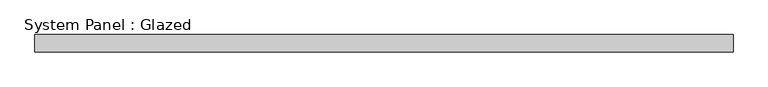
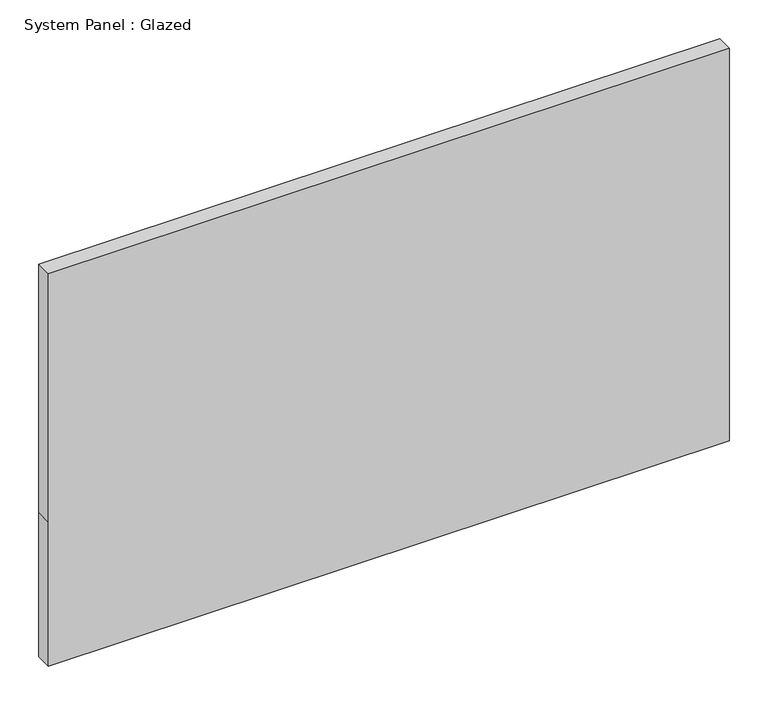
"""IFC4 building model written with IfcOpenShell, lengths in millimetres: plate geometry, System Panel : Glazed."""

from ifc_helpers import new_model, si_unit, frame, origin, place, context, project, spatial, polyline, outline, extrude, source, transform, mapped, element, save


def system_panel_glazed_74a70a57(model_context):
    return source(origin(), model_context, "Body", "SweptSolid", [
        extrude(outline(polyline([(0.0, -510.7214285), (0.0, 510.7214285), (228.6, 510.7214285), (622.3, 510.7214285), (622.3, -510.7214285), (228.6, -510.7214285), (0.0, -510.7214285)])), frame((0.0, 19.05, 0.0), z_axis=(0.0, 1.0, 0.0), x_axis=(0.0, 0.0, 1.0)), (0.0, 0.0, 1.0), 25.4),
    ])


if __name__ == "__main__":
    model = new_model("IFC4")
    model_context = context("Model", 3, world=origin())
    ifc_project = project(units=[si_unit("LENGTHUNIT", "METRE", prefix="MILLI")], contexts=[model_context])
    site = spatial("IfcSite", under=ifc_project)
    building = spatial("IfcBuilding", under=site)
    placement = place(None, origin())
    system_panel_glazed_shape = system_panel_glazed_74a70a57(model_context)
    element("IfcPlate", 1, ObjectType="System Panel : Glazed", at=placement, inside=building, context=model_context, shape_type="MappedRepresentation", body=[
        mapped(system_panel_glazed_shape, transform((0.0, 0.0, 0.0), x_axis=(1.0, 0.0, 0.0), y_axis=(0.0, 1.0, 0.0), z_axis=(0.0, 0.0, 1.0))),
    ])
    save(model, "model.ifc")
